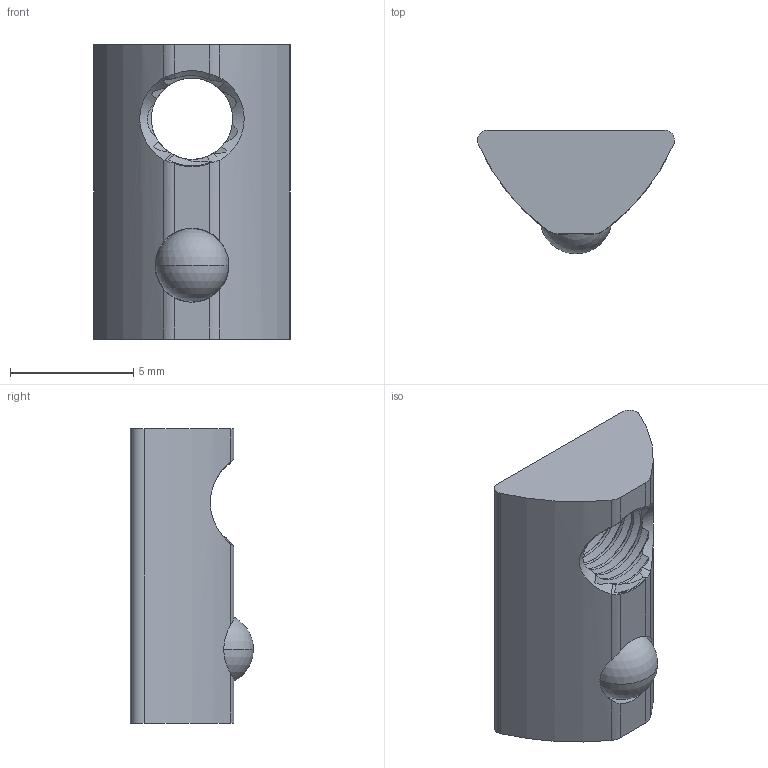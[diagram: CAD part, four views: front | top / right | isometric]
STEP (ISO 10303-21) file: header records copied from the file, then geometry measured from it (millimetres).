
FILE_DESCRIPTION (( 'STEP AP203' ), '1' );
FILE_NAME ('99900831_Nutenstein 5 M3 einschwenkbar mit Kugel (ohne Steg).step', '2022-11-14T08:27:56', ( '' ), ( '' ), 'SwSTEP 2.0', 'SolidWorks 2021', '' );
FILE_SCHEMA (( 'CONFIG_CONTROL_DESIGN' ));
Length unit declared in the file: millimetre
Products named in the file (1): 99900831_Nutenstein 5 M3 einschwenkbar mit Kugel (ohne Steg)
Bounding box: 8 x 5 x 11.95 mm (x, y, z)
Volume: 246.3 mm3; surface area: 382.4 mm2
Topology: 2 solids, 2 shells, 67 faces, 190 edges, 124 vertices
Faces by surface type: cylinder 30, bspline 21, cone 7, plane 7, sphere 2
Entity records: 6882 total; most frequent: CARTESIAN_POINT 5422, ORIENTED_EDGE 370, DIRECTION 190, EDGE_CURVE 185, VERTEX_POINT 121, AXIS2_PLACEMENT_3D 75, B_SPLINE_CURVE_WITH_KNOTS 73, EDGE_LOOP 68
